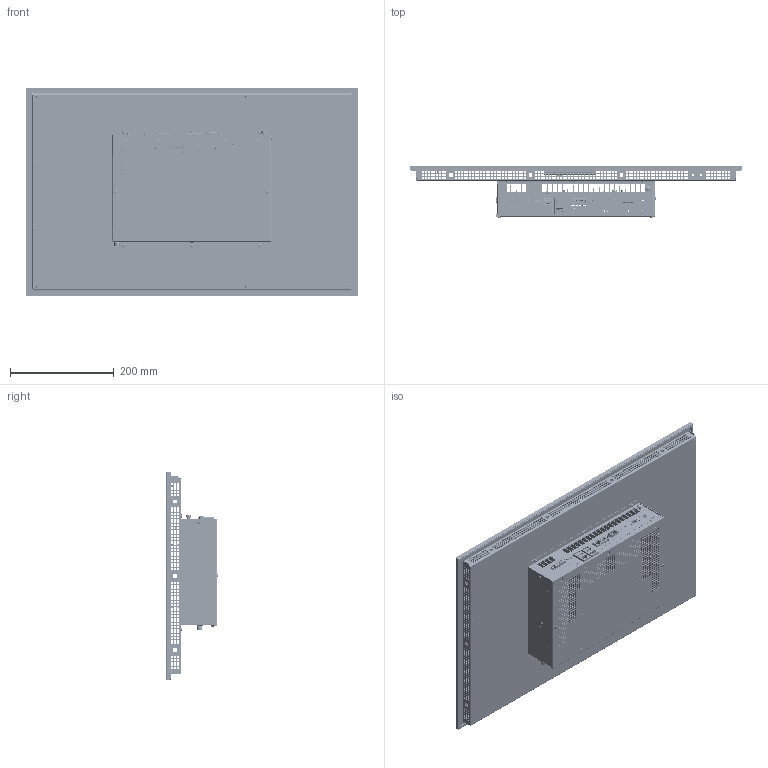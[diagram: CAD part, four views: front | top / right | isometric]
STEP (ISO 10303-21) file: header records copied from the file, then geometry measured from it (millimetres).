
FILE_DESCRIPTION (( 'STEP AP214' ), '1' );
FILE_NAME ('C6P34-Panel_240W_Cap_S0.STEP', '2019-09-20T10:17:33', ( '' ), ( '' ), 'SwSTEP 2.0', 'SolidWorks 2018', '' );
FILE_SCHEMA (( 'AUTOMOTIVE_DESIGN' ));
Length unit declared in the file: millimetre
Products named in the file (172): piazzuola_de800_di370; 21614000; 62113042.prt; 52912002; 65720030; 7359_056; 21409042; 51524089; 65720029; 69111028; 3802x-x05n-01x.prt; 56636642.prt; 65720078; 21404036; 66320001; D02201701; 14300025; 7359_056_Depopolato; 57936014; 62920009; 21408088; 66320016; 21502089; 48000072.prt; 56600297(2)^56600297; 66320015; D02201702; 58502113; 21509026; 58702102; 52536147_Default<A macchina>; 21410056; C6P34-Panel_240W_Cap_S0; 7397_227; 55600006^56600297(2)_TST-000853; 23330039; 55688006.asm; 59702265; 55688006.prt; 57902481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
Assembly tree (128 placements, depth 6):
  piazzuola_de800_di370
  21614000
  62113042.prt
  52912002
  65720030
Bounding box: 639.5 x 101.29 x 402 mm (x, y, z)
Volume: 1812838.6 mm3; surface area: 2537338.4 mm2
Topology: 224 solids, 266 shells, 28139 faces, 79286 edges, 52030 vertices
Faces by surface type: plane 22115, cylinder 4540, bspline 715, cone 673, torus 76, sphere 20
Full cylindrical faces by diameter (mm): 0.3 x9, 0.434 x1, 0.6 x30, 0.65 x6, 0.7 x165, 0.8 x36, 0.85 x66, 0.9 x175, 0.95 x11, 1 x119, 1.1 x3, 1.2 x10, 1.32 x2, 1.35 x4, 1.4 x8, 1.5 x6, 1.6 x7, 1.7 x4, 1.8 x3, 1.9 x4, 1.95 x4, 2.05 x1, 2.3 x18, 2.4 x9, 2.5 x38, 2.6 x5, 2.8 x3, 2.874 x1, 3 x66, 3.15 x2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
Entity records: 836334 total; most frequent: CARTESIAN_POINT 173911, ORIENTED_EDGE 136844, DIRECTION 121005, EDGE_CURVE 68858, LINE 58913, VECTOR 58913, VERTEX_POINT 45949, EDGE_LOOP 32180
